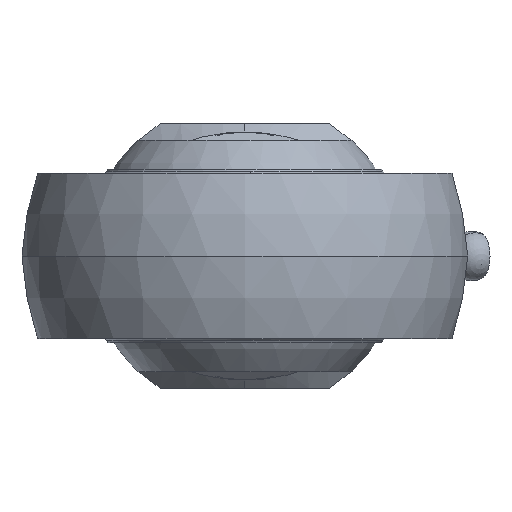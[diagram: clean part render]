
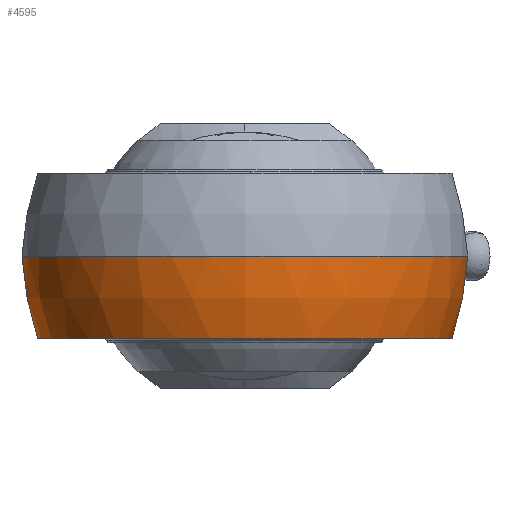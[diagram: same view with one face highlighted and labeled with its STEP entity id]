
A CAD part, left-side view. The second image highlights one B-rep face of the part: STEP entity #4595.
In plain terms, the highlighted spherical face has radius 27 mm.
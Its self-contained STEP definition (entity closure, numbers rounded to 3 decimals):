
#2624 = CARTESIAN_POINT ( 'NONE',  ( 11.755, -24.307, 0. ) ) ;
#2671 = CARTESIAN_POINT ( 'NONE',  ( 11.755, -22.155, -10. ) ) ;
#2672 = DIRECTION ( 'NONE',  ( 0., 1., 0. ) ) ;
#2673 = DIRECTION ( 'NONE',  ( 0., 0., -1. ) ) ;
#2674 = CARTESIAN_POINT ( 'NONE',  ( 0., 0., 0. ) ) ;
#2675 = AXIS2_PLACEMENT_3D ( 'NONE', #2674, #2673, #2672 ) ;
#2676 = CIRCLE ( 'NONE', #2675, 27. ) ;
#2677 = CARTESIAN_POINT ( 'NONE',  ( -27., 0., 0. ) ) ;
#2714 = DIRECTION ( 'NONE',  ( 0., 0., 1. ) ) ;
#2715 = DIRECTION ( 'NONE',  ( -1., 0., 0. ) ) ;
#2716 = CARTESIAN_POINT ( 'NONE',  ( 11.755, 0., 0. ) ) ;
#2717 = AXIS2_PLACEMENT_3D ( 'NONE', #2716, #2715, #2714 ) ;
#2718 = CIRCLE ( 'NONE', #2717, 24.307 ) ;
#2774 = DIRECTION ( 'NONE',  ( 0., 1., 0. ) ) ;
#2775 = DIRECTION ( 'NONE',  ( 0., 0., -1. ) ) ;
#2776 = AXIS2_PLACEMENT_3D ( 'NONE', #2778, #2775, #2774 ) ;
#2778 = CARTESIAN_POINT ( 'NONE',  ( 0., 0., 0. ) ) ;
#2779 = SPHERICAL_SURFACE ( 'NONE', #2776, 27. ) ;
#2783 = FACE_OUTER_BOUND ( 'NONE', #4577, .T. ) ;
#2842 = CARTESIAN_POINT ( 'NONE',  ( 11.755, 22.155, -10. ) ) ;
#2843 = DIRECTION ( 'NONE',  ( 0., 0., 1. ) ) ;
#2844 = DIRECTION ( 'NONE',  ( -1., 0., 0. ) ) ;
#2845 = CARTESIAN_POINT ( 'NONE',  ( 11.755, 0., 0. ) ) ;
#2846 = AXIS2_PLACEMENT_3D ( 'NONE', #2845, #2844, #2843 ) ;
#2847 = CIRCLE ( 'NONE', #2846, 24.307 ) ;
#2865 = CARTESIAN_POINT ( 'NONE',  ( 11.755, 24.307, 0. ) ) ;
#2866 = DIRECTION ( 'NONE',  ( 1., 0., 0. ) ) ;
#2867 = DIRECTION ( 'NONE',  ( 0., 0., 1. ) ) ;
#2868 = CARTESIAN_POINT ( 'NONE',  ( 0., 0., -10. ) ) ;
#2869 = AXIS2_PLACEMENT_3D ( 'NONE', #2868, #2867, #2866 ) ;
#2870 = CIRCLE ( 'NONE', #2869, 25.08 ) ;
#2924 = DIRECTION ( 'NONE',  ( 1., 0., 0. ) ) ;
#2925 = DIRECTION ( 'NONE',  ( 0., 0., 1. ) ) ;
#2926 = CARTESIAN_POINT ( 'NONE',  ( 0., 0., 0. ) ) ;
#2927 = AXIS2_PLACEMENT_3D ( 'NONE', #2926, #2925, #2924 ) ;
#2928 = CIRCLE ( 'NONE', #2927, 27. ) ;
#4507 = ORIENTED_EDGE ( 'NONE', *, *, #4540, .T. ) ;
#4508 = VERTEX_POINT ( 'NONE', #2624 ) ;
#4539 = VERTEX_POINT ( 'NONE', #2677 ) ;
#4540 = EDGE_CURVE ( 'NONE', #4508, #4539, #2676, .T. ) ;
#4541 = VERTEX_POINT ( 'NONE', #2671 ) ;
#4547 = EDGE_CURVE ( 'NONE', #4541, #4508, #2718, .T. ) ;
#4566 = ORIENTED_EDGE ( 'NONE', *, *, #4547, .T. ) ;
#4577 = EDGE_LOOP ( 'NONE', ( #4566, #4507, #4625, #4623, #4622 ) ) ;
#4595 = ADVANCED_FACE ( 'NONE', ( #2783 ), #2779, .T. ) ;
#4614 = EDGE_CURVE ( 'NONE', #4624, #4615, #2847, .T. ) ;
#4615 = VERTEX_POINT ( 'NONE', #2842 ) ;
#4621 = EDGE_CURVE ( 'NONE', #4615, #4541, #2870, .T. ) ;
#4622 = ORIENTED_EDGE ( 'NONE', *, *, #4621, .T. ) ;
#4623 = ORIENTED_EDGE ( 'NONE', *, *, #4614, .T. ) ;
#4624 = VERTEX_POINT ( 'NONE', #2865 ) ;
#4625 = ORIENTED_EDGE ( 'NONE', *, *, #4626, .F. ) ;
#4626 = EDGE_CURVE ( 'NONE', #4624, #4539, #2928, .T. ) ;
